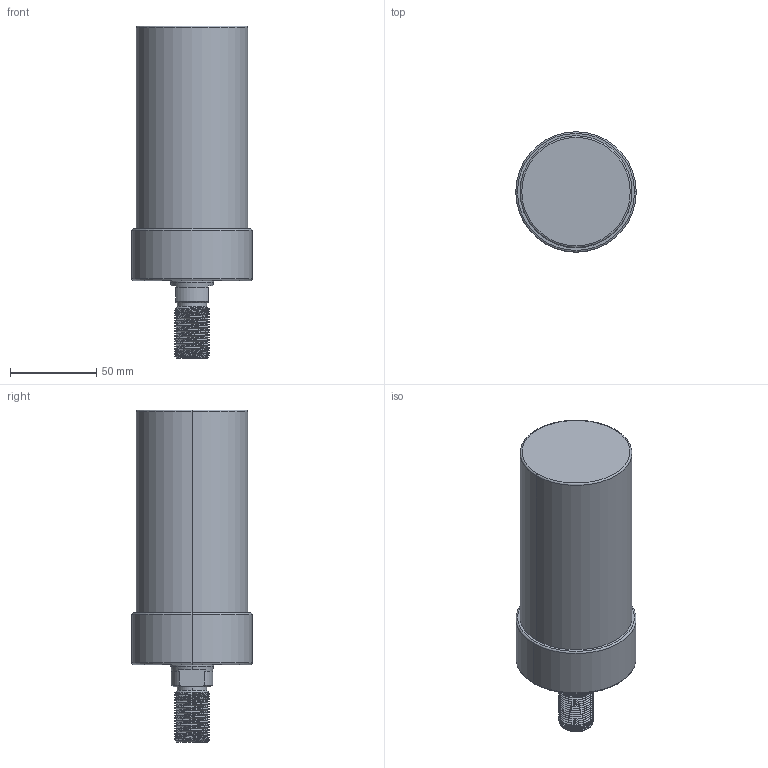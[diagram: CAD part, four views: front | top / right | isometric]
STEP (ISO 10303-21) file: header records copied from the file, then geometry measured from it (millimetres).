
FILE_DESCRIPTION (( 'STEP AP203' ), '1' );
FILE_NAME ('CLLU-065GT-085.STEP', '2020-01-16T02:09:37', ( '' ), ( '' ), 'SwSTEP 2.0', 'SolidWorks 2015', '' );
FILE_SCHEMA (( 'CONFIG_CONTROL_DESIGN' ));
Length unit declared in the file: millimetre
Products named in the file (1): CLLU-065GT-085
Bounding box: 70 x 70 x 193 mm (x, y, z)
Volume: 519754.9 mm3; surface area: 43533.7 mm2
Topology: 1 solids, 1 shells, 105 faces, 267 edges, 165 vertices
Faces by surface type: cylinder 60, cone 26, plane 11, torus 6, bspline 2
Entity records: 5370 total; most frequent: CARTESIAN_POINT 3012, ORIENTED_EDGE 518, DIRECTION 448, EDGE_CURVE 259, AXIS2_PLACEMENT_3D 180, VERTEX_POINT 165, EDGE_LOOP 114, ADVANCED_FACE 105
